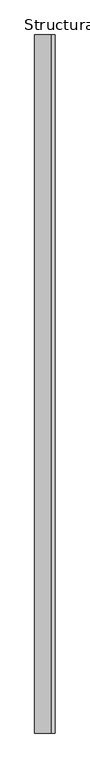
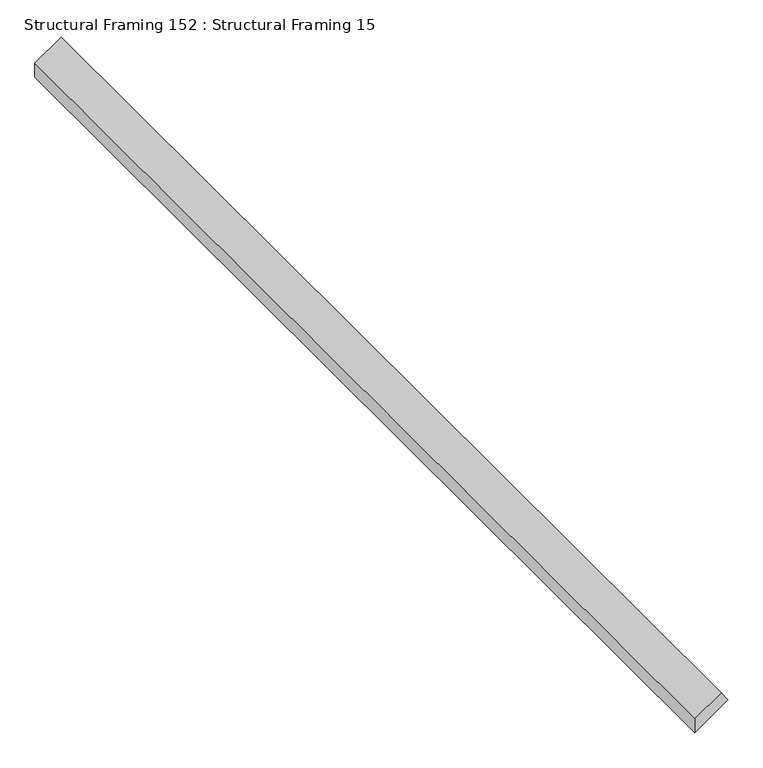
"""IFC4 building model written with IfcOpenShell, lengths in millimetres: beam geometry, Structural Framing 152 : Structural Framing 15."""

from ifc_helpers import new_model, si_unit, frame, origin, place, context, project, spatial, polyline, outline, extrude, source, transform, mapped, element, save


def structural_framing_152_structural_framing_15_fae30983(model_context):
    return source(origin(), model_context, "Body", "SweptSolid", [
        extrude(outline(polyline([(100.0, -2649.2207109), (120.4788011, -2663.5601218), (81.6513175, -2719.0115151), (51.1319528, -2719.0115151), (100.0, -2649.2207109)])), frame((0.0, -6581.9491979, 0.0), z_axis=(0.0, 1.0, 0.0), x_axis=(0.0, 0.0, 1.0)), (0.0, 0.0, 1.0), 2400.0),
    ])


if __name__ == "__main__":
    model = new_model("IFC4")
    model_context = context("Model", 3, world=origin())
    ifc_project = project(units=[si_unit("LENGTHUNIT", "METRE", prefix="MILLI")], contexts=[model_context])
    site = spatial("IfcSite", under=ifc_project)
    building = spatial("IfcBuilding", under=site)
    placement = place(None, origin())
    structural_framing_152_structural_framing_15_shape = structural_framing_152_structural_framing_15_fae30983(model_context)
    element("IfcBeam", 1, ObjectType="Structural Framing 152 : Structural Framing 15", at=placement, inside=building, context=model_context, shape_type="MappedRepresentation", body=[
        mapped(structural_framing_152_structural_framing_15_shape, transform((0.0, 0.0, 0.0), x_axis=(1.0, 0.0, 0.0), y_axis=(0.0, 1.0, 0.0), z_axis=(0.0, 0.0, 1.0))),
    ])
    save(model, "model.ifc")
